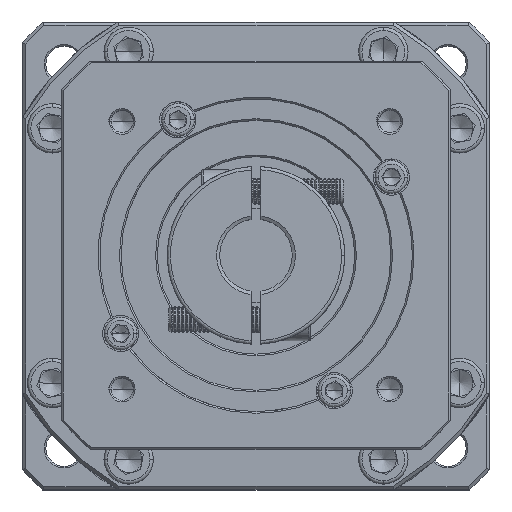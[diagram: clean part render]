
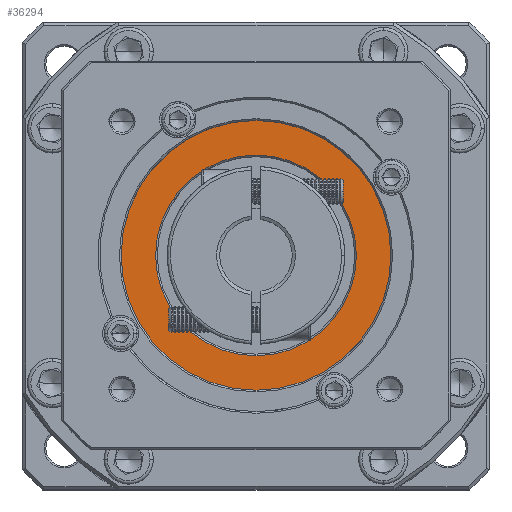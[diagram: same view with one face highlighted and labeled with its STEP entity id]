
A CAD part, top view. The second image highlights one B-rep face of the part: STEP entity #36294.
In plain terms, the highlighted planar face has unit normal (0, 0, 1).
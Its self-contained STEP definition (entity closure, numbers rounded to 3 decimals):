
#1786 = FACE_BOUND ( 'NONE', #48478, .T. ) ;
#5488 = DIRECTION ( 'NONE',  ( 1., 0., 0. ) ) ;
#11820 = DIRECTION ( 'NONE',  ( 0., 0., -1. ) ) ;
#11962 = CARTESIAN_POINT ( 'NONE',  ( -145.14, 117.326, -2.678 ) ) ;
#12579 = CIRCLE ( 'NONE', #38841, 30.5 ) ;
#18392 = ORIENTED_EDGE ( 'NONE', *, *, #33575, .T. ) ;
#18888 = EDGE_CURVE ( 'NONE', #71564, #113014, #88813, .T. ) ;
#20216 = CARTESIAN_POINT ( 'NONE',  ( -186.14, 117.326, -2.678 ) ) ;
#20934 = EDGE_LOOP ( 'NONE', ( #18392, #66023 ) ) ;
#26277 = AXIS2_PLACEMENT_3D ( 'NONE', #27771, #140903, #5488 ) ;
#27771 = CARTESIAN_POINT ( 'NONE',  ( -145.14, 117.326, -2.678 ) ) ;
#28317 = VERTEX_POINT ( 'NONE', #68601 ) ;
#30184 = CIRCLE ( 'NONE', #116120, 30.5 ) ;
#33575 = EDGE_CURVE ( 'NONE', #113014, #71564, #101045, .T. ) ;
#36190 = DIRECTION ( 'NONE',  ( 1., 0., 0. ) ) ;
#36294 = ADVANCED_FACE ( 'NONE', ( #122081, #1786 ), #96458, .T. ) ;
#36599 = ORIENTED_EDGE ( 'NONE', *, *, #79742, .T. ) ;
#36948 = DIRECTION ( 'NONE',  ( 1., 0., 0. ) ) ;
#37265 = CARTESIAN_POINT ( 'NONE',  ( -104.14, 117.326, -2.678 ) ) ;
#38841 = AXIS2_PLACEMENT_3D ( 'NONE', #77616, #11820, #45950 ) ;
#39291 = AXIS2_PLACEMENT_3D ( 'NONE', #83356, #81900, #36948 ) ;
#45950 = DIRECTION ( 'NONE',  ( 1., 0., 0. ) ) ;
#48478 = EDGE_LOOP ( 'NONE', ( #36599, #57307 ) ) ;
#57307 = ORIENTED_EDGE ( 'NONE', *, *, #105561, .T. ) ;
#63293 = CARTESIAN_POINT ( 'NONE',  ( -175.64, 117.326, -2.678 ) ) ;
#66023 = ORIENTED_EDGE ( 'NONE', *, *, #18888, .T. ) ;
#68601 = CARTESIAN_POINT ( 'NONE',  ( -114.64, 117.326, -2.678 ) ) ;
#71564 = VERTEX_POINT ( 'NONE', #20216 ) ;
#75016 = DIRECTION ( 'NONE',  ( 0., 0., -1. ) ) ;
#77616 = CARTESIAN_POINT ( 'NONE',  ( -145.14, 117.326, -2.678 ) ) ;
#79742 = EDGE_CURVE ( 'NONE', #28317, #143174, #30184, .T. ) ;
#81900 = DIRECTION ( 'NONE',  ( 0., 0., 1. ) ) ;
#83356 = CARTESIAN_POINT ( 'NONE',  ( -145.14, 117.326, -2.678 ) ) ;
#88813 = CIRCLE ( 'NONE', #39291, 41. ) ;
#93973 = AXIS2_PLACEMENT_3D ( 'NONE', #11962, #135520, #36190 ) ;
#96458 = PLANE ( 'NONE',  #26277 ) ;
#98205 = CARTESIAN_POINT ( 'NONE',  ( -145.14, 117.326, -2.678 ) ) ;
#101045 = CIRCLE ( 'NONE', #93973, 41. ) ;
#105561 = EDGE_CURVE ( 'NONE', #143174, #28317, #12579, .T. ) ;
#113014 = VERTEX_POINT ( 'NONE', #37265 ) ;
#116120 = AXIS2_PLACEMENT_3D ( 'NONE', #98205, #75016, #141702 ) ;
#122081 = FACE_OUTER_BOUND ( 'NONE', #20934, .T. ) ;
#135520 = DIRECTION ( 'NONE',  ( 0., 0., 1. ) ) ;
#140903 = DIRECTION ( 'NONE',  ( 0., 0., 1. ) ) ;
#141702 = DIRECTION ( 'NONE',  ( 1., 0., 0. ) ) ;
#143174 = VERTEX_POINT ( 'NONE', #63293 ) ;
